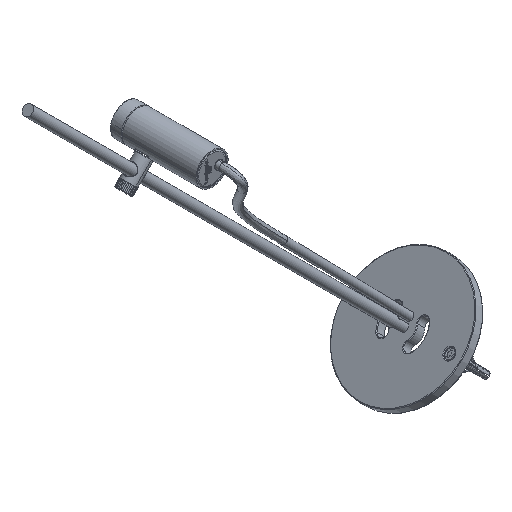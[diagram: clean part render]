
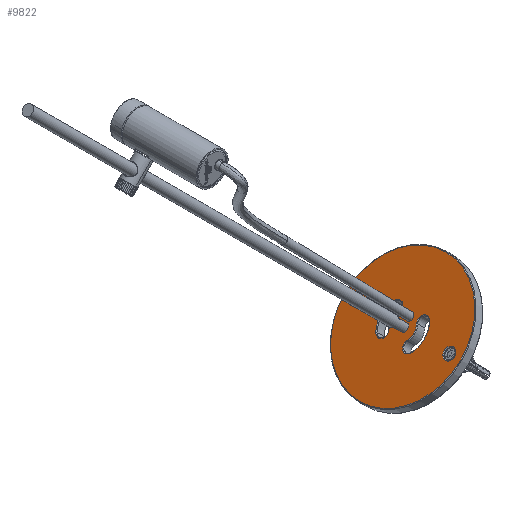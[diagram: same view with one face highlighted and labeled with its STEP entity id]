
A CAD part, isometric view. The second image highlights one B-rep face of the part: STEP entity #9822.
In plain terms, the highlighted planar face has unit normal (-0.705, 0.07, 0.705).
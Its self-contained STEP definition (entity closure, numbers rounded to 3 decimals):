
#9347=CARTESIAN_POINT('',(182.698,29.159,-216.285));
#9348=DIRECTION('',(0.705,-0.071,-0.705));
#9349=DIRECTION('',(0.707,0.,0.707));
#9350=AXIS2_PLACEMENT_3D('',#9347,#9348,#9349);
#9352=CARTESIAN_POINT('',(182.698,29.159,-216.285));
#9353=DIRECTION('',(0.705,-0.071,-0.705));
#9354=DIRECTION('',(-0.707,0.,-0.707));
#9355=AXIS2_PLACEMENT_3D('',#9352,#9353,#9354);
#9357=CARTESIAN_POINT('',(180.703,-10.741,
-214.291));
#9358=DIRECTION('',(-0.705,0.071,0.705));
#9359=DIRECTION('',(-0.707,0.,-0.707));
#9360=AXIS2_PLACEMENT_3D('',#9357,#9358,#9359);
#9362=CARTESIAN_POINT('',(180.703,-10.741,
-214.291));
#9363=DIRECTION('',(-0.705,0.071,0.705));
#9364=DIRECTION('',(0.707,0.,0.707));
#9365=AXIS2_PLACEMENT_3D('',#9362,#9363,#9364);
#9367=CARTESIAN_POINT('',(178.709,-50.642,
-212.297));
#9368=DIRECTION('',(0.705,-0.071,-0.705));
#9369=DIRECTION('',(-0.707,0.,-0.707));
#9370=AXIS2_PLACEMENT_3D('',#9367,#9368,#9369);
#9372=CARTESIAN_POINT('',(178.709,-50.642,
-212.297));
#9373=DIRECTION('',(0.705,-0.071,-0.705));
#9374=DIRECTION('',(0.707,0.,0.707));
#9375=AXIS2_PLACEMENT_3D('',#9372,#9373,#9374);
#9377=CARTESIAN_POINT('',(180.703,-10.741,
-214.291));
#9378=DIRECTION('',(-0.705,0.071,0.705));
#9379=DIRECTION('',(-0.707,0.,-0.707));
#9380=AXIS2_PLACEMENT_3D('',#9377,#9378,#9379);
#9382=CARTESIAN_POINT('',(180.703,-10.741,
-214.291));
#9383=DIRECTION('',(-0.705,0.071,0.705));
#9384=DIRECTION('',(0.707,0.,0.707));
#9385=AXIS2_PLACEMENT_3D('',#9382,#9383,#9384);
#9387=CARTESIAN_POINT('',(186.953,0.699,
-209.185));
#9388=DIRECTION('',(0.705,-0.071,-0.705));
#9389=DIRECTION('',(0.446,0.817,0.365));
#9390=AXIS2_PLACEMENT_3D('',#9387,#9388,#9389);
#9392=CARTESIAN_POINT('',(180.703,-10.741,
-214.291));
#9393=DIRECTION('',(0.705,-0.071,-0.705));
#9394=DIRECTION('',(-0.365,0.817,-0.446));
#9395=AXIS2_PLACEMENT_3D('',#9392,#9393,#9394);
#9397=CARTESIAN_POINT('',(175.597,0.699,
-220.541));
#9398=DIRECTION('',(0.705,-0.071,-0.705));
#9399=DIRECTION('',(0.365,-0.817,0.446));
#9400=AXIS2_PLACEMENT_3D('',#9397,#9398,#9399);
#9402=CARTESIAN_POINT('',(180.703,-10.741,
-214.291));
#9403=DIRECTION('',(-0.705,0.071,0.705));
#9404=DIRECTION('',(0.446,0.817,0.365));
#9405=AXIS2_PLACEMENT_3D('',#9402,#9403,#9404);
#9407=CARTESIAN_POINT('',(185.81,-22.181,
-208.041));
#9408=DIRECTION('',(0.705,-0.071,-0.705));
#9409=DIRECTION('',(-0.365,0.817,-0.446));
#9410=AXIS2_PLACEMENT_3D('',#9407,#9408,#9409);
#9412=CARTESIAN_POINT('',(180.703,-10.741,
-214.291));
#9413=DIRECTION('',(-0.705,0.071,0.705));
#9414=DIRECTION('',(-0.446,-0.817,-0.365));
#9415=AXIS2_PLACEMENT_3D('',#9412,#9413,#9414);
#9417=CARTESIAN_POINT('',(174.454,-22.181,
-219.397));
#9418=DIRECTION('',(0.705,-0.071,-0.705));
#9419=DIRECTION('',(-0.446,-0.817,-0.365));
#9420=AXIS2_PLACEMENT_3D('',#9417,#9418,#9419);
#9422=CARTESIAN_POINT('',(180.703,-10.741,
-214.291));
#9423=DIRECTION('',(0.705,-0.071,-0.705));
#9424=DIRECTION('',(0.365,-0.817,0.446));
#9425=AXIS2_PLACEMENT_3D('',#9422,#9423,#9424);
#9602=CARTESIAN_POINT('',(185.88,29.159,-213.103));
#9603=CARTESIAN_POINT('',(179.516,29.159,-219.467));
#9604=VERTEX_POINT('',#9602);
#9605=VERTEX_POINT('',#9603);
#9614=CARTESIAN_POINT('',(178.936,-10.741,
-216.059));
#9615=CARTESIAN_POINT('',(182.471,-10.741,
-212.523));
#9616=VERTEX_POINT('',#9614);
#9617=VERTEX_POINT('',#9615);
#9638=CARTESIAN_POINT('',(175.527,-50.642,
-215.479));
#9639=CARTESIAN_POINT('',(181.891,-50.642,
-209.115));
#9640=VERTEX_POINT('',#9638);
#9641=VERTEX_POINT('',#9639);
#9646=CARTESIAN_POINT('',(145.702,-10.741,
-249.293));
#9647=CARTESIAN_POINT('',(215.705,-10.741,
-179.289));
#9648=VERTEX_POINT('',#9646);
#9649=VERTEX_POINT('',#9647);
#9662=CARTESIAN_POINT('',(188.962,4.376,-207.543));
#9663=CARTESIAN_POINT('',(184.944,-2.978,
-210.826));
#9664=VERTEX_POINT('',#9662);
#9665=VERTEX_POINT('',#9663);
#9670=CARTESIAN_POINT('',(177.238,-2.978,
-218.532));
#9671=VERTEX_POINT('',#9670);
#9674=CARTESIAN_POINT('',(173.956,4.376,-222.55));
#9675=VERTEX_POINT('',#9674);
#9678=CARTESIAN_POINT('',(184.168,-18.504,
-210.05));
#9679=CARTESIAN_POINT('',(187.451,-25.858,
-206.032));
#9680=VERTEX_POINT('',#9678);
#9681=VERTEX_POINT('',#9679);
#9686=CARTESIAN_POINT('',(172.445,-25.858,
-221.039));
#9687=VERTEX_POINT('',#9686);
#9690=CARTESIAN_POINT('',(176.462,-18.504,
-217.756));
#9691=VERTEX_POINT('',#9690);
#9774=CARTESIAN_POINT('',(180.703,-10.741,
-214.291));
#9775=DIRECTION('',(-0.705,0.071,0.705));
#9776=DIRECTION('',(0.707,0.,0.707));
#9777=AXIS2_PLACEMENT_3D('',#9774,#9775,#9776);
#9778=PLANE('',#9777);
#9780=ORIENTED_EDGE('',*,*,#9779,.F.);
#9782=ORIENTED_EDGE('',*,*,#9781,.F.);
#9783=EDGE_LOOP('',(#9780,#9782));
#9784=FACE_OUTER_BOUND('',#9783,.F.);
#9786=ORIENTED_EDGE('',*,*,#9785,.T.);
#9788=ORIENTED_EDGE('',*,*,#9787,.T.);
#9789=EDGE_LOOP('',(#9786,#9788));
#9790=FACE_BOUND('',#9789,.F.);
#9792=ORIENTED_EDGE('',*,*,#9791,.F.);
#9794=ORIENTED_EDGE('',*,*,#9793,.F.);
#9795=EDGE_LOOP('',(#9792,#9794));
#9796=FACE_BOUND('',#9795,.F.);
#9798=ORIENTED_EDGE('',*,*,#9797,.F.);
#9800=ORIENTED_EDGE('',*,*,#9799,.F.);
#9801=EDGE_LOOP('',(#9798,#9800));
#9802=FACE_BOUND('',#9801,.F.);
#9803=ORIENTED_EDGE('',*,*,#9764,.F.);
#9805=ORIENTED_EDGE('',*,*,#9804,.F.);
#9807=ORIENTED_EDGE('',*,*,#9806,.F.);
#9809=ORIENTED_EDGE('',*,*,#9808,.F.);
#9810=EDGE_LOOP('',(#9803,#9805,#9807,#9809));
#9811=FACE_BOUND('',#9810,.F.);
#9813=ORIENTED_EDGE('',*,*,#9812,.F.);
#9815=ORIENTED_EDGE('',*,*,#9814,.F.);
#9817=ORIENTED_EDGE('',*,*,#9816,.F.);
#9819=ORIENTED_EDGE('',*,*,#9818,.F.);
#9820=EDGE_LOOP('',(#9813,#9815,#9817,#9819));
#9821=FACE_BOUND('',#9820,.F.);
#9822=ADVANCED_FACE('',(#9784,#9790,#9796,#9802,#9811,#9821),#9778,.T.);
#9351=CIRCLE('',#9350,4.5);
#9356=CIRCLE('',#9355,4.5);
#9361=CIRCLE('',#9360,2.5);
#9366=CIRCLE('',#9365,2.5);
#9371=CIRCLE('',#9370,4.5);
#9376=CIRCLE('',#9375,4.5);
#9381=CIRCLE('',#9380,49.5);
#9386=CIRCLE('',#9385,49.5);
#9391=CIRCLE('',#9390,4.5);
#9396=CIRCLE('',#9395,18.5);
#9401=CIRCLE('',#9400,4.5);
#9406=CIRCLE('',#9405,9.5);
#9411=CIRCLE('',#9410,4.5);
#9416=CIRCLE('',#9415,9.5);
#9421=CIRCLE('',#9420,4.5);
#9426=CIRCLE('',#9425,18.5);
#9764=EDGE_CURVE('',#9664,#9665,#9391,.T.);
#9779=EDGE_CURVE('',#9648,#9649,#9381,.T.);
#9781=EDGE_CURVE('',#9649,#9648,#9386,.T.);
#9785=EDGE_CURVE('',#9616,#9617,#9361,.T.);
#9787=EDGE_CURVE('',#9617,#9616,#9366,.T.);
#9791=EDGE_CURVE('',#9640,#9641,#9371,.T.);
#9793=EDGE_CURVE('',#9641,#9640,#9376,.T.);
#9797=EDGE_CURVE('',#9604,#9605,#9351,.T.);
#9799=EDGE_CURVE('',#9605,#9604,#9356,.T.);
#9804=EDGE_CURVE('',#9675,#9664,#9396,.T.);
#9806=EDGE_CURVE('',#9671,#9675,#9401,.T.);
#9808=EDGE_CURVE('',#9665,#9671,#9406,.T.);
#9812=EDGE_CURVE('',#9680,#9681,#9411,.T.);
#9814=EDGE_CURVE('',#9691,#9680,#9416,.T.);
#9816=EDGE_CURVE('',#9687,#9691,#9421,.T.);
#9818=EDGE_CURVE('',#9681,#9687,#9426,.T.);
